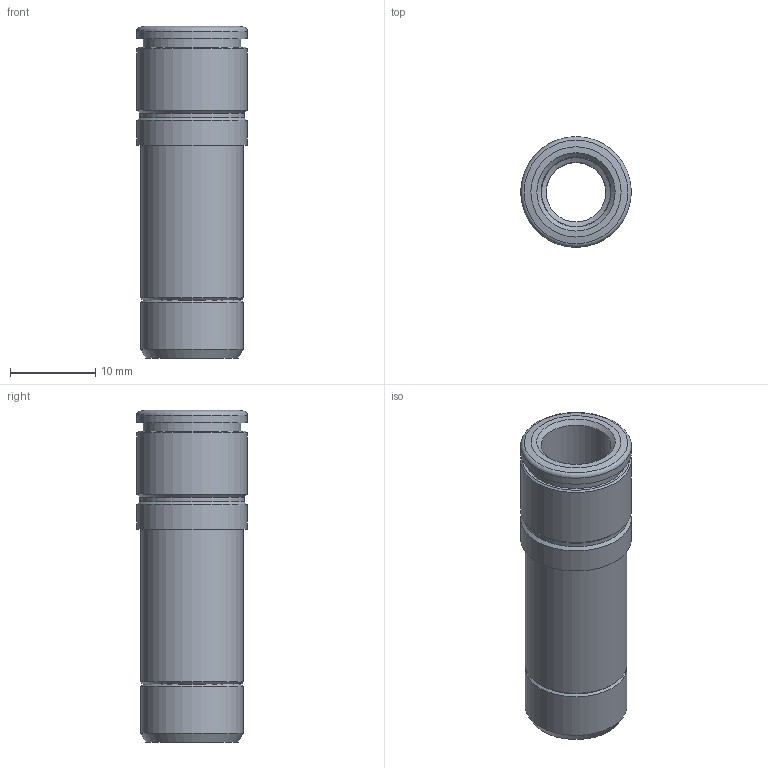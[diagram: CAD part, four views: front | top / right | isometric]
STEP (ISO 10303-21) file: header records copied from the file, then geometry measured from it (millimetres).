
FILE_DESCRIPTION(('Bauteilbeschreibung','HiCAD-Model','HiCAD-STEP-TRANSLATION','Bauteilbeschreibung'),'2;1');
FILE_NAME('B:/ABGLEICH/ZEICHNUNGEN/STEP FÜR INTERNET/STEP/IPSO 08/200811_IPSO_08_12_8.STP','2012-03-14T10:16:54+00:00',('Konstrukteur'),('Konstrukteur Firma GmbH'),' HiCAD neXt 2008, Step 3.1.1401.2J ','HiCAD neXt 2008','confidential');
FILE_SCHEMA(('AUTOMOTIVE_DESIGN { 1 2 10303 214 0 1 1 1 }'));
Length unit declared in the file: millimetre
Products named in the file (3): A00811_IPSO_08_12_8; R200811_N; DR8_1_NEU
Assembly tree (2 placements, depth 2):
  A00811_IPSO_08_12_8
    R200811_N
    DR8_1_NEU
Bounding box: 13 x 13 x 39 mm (x, y, z)
Volume: 2623.6 mm3; surface area: 3232 mm2
Topology: 2 solids, 2 shells, 35 faces, 63 edges, 35 vertices
Faces by surface type: cone 14, cylinder 13, plane 7, torus 1
Full cylindrical faces by diameter (mm): 7 x1, 8.1 x1, 8.2 x1, 10.1 x1, 11 x1, 11.5 x1, 11.6 x1, 12 x2, 12.3 x1, 13 x3
Entity records: 963 total; most frequent: DIRECTION 148, CARTESIAN_POINT 109, AXIS2_PLACEMENT_3D 74, EDGE_LOOP 70, ORIENTED_EDGE 70, COLOUR_RGB 37, PRESENTATION_STYLE_ASSIGNMENT 37, ADVANCED_FACE 35
